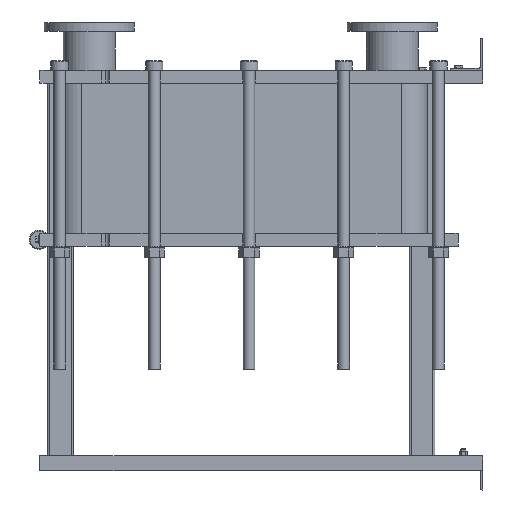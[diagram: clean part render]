
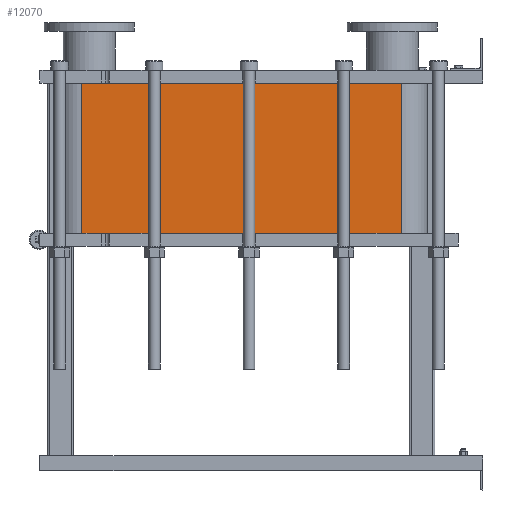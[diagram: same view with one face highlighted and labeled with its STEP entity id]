
A CAD part, left-side view. The second image highlights one B-rep face of the part: STEP entity #12070.
In plain terms, the highlighted planar face has unit normal (-1, 0, 0).
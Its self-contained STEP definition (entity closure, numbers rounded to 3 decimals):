
#1064=LINE('',#21140,#2164);
#1065=LINE('',#21144,#2165);
#1066=LINE('',#21146,#2166);
#1067=LINE('',#21147,#2167);
#2164=VECTOR('',#15790,10.);
#2165=VECTOR('',#15795,10.);
#2166=VECTOR('',#15796,10.);
#2167=VECTOR('',#15797,10.);
#3304=FACE_OUTER_BOUND('',#4091,.T.);
#4091=EDGE_LOOP('',(#9793,#9794,#9795,#9796));
#5677=VERTEX_POINT('',#21137);
#5678=VERTEX_POINT('',#21139);
#5679=VERTEX_POINT('',#21143);
#5680=VERTEX_POINT('',#21145);
#7118=EDGE_CURVE('',#5678,#5677,#1064,.T.);
#7120=EDGE_CURVE('',#5677,#5679,#1065,.T.);
#7121=EDGE_CURVE('',#5680,#5679,#1066,.T.);
#7122=EDGE_CURVE('',#5680,#5678,#1067,.T.);
#9793=ORIENTED_EDGE('',*,*,#7120,.T.);
#9794=ORIENTED_EDGE('',*,*,#7121,.F.);
#9795=ORIENTED_EDGE('',*,*,#7122,.T.);
#9796=ORIENTED_EDGE('',*,*,#7118,.T.);
#11441=PLANE('',#13191);
#12070=ADVANCED_FACE('',(#3304),#11441,.T.);
#13191=AXIS2_PLACEMENT_3D('',#21142,#15793,#15794);
#15790=DIRECTION('',(0.,0.,-1.));
#15793=DIRECTION('center_axis',(-1.,0.,0.));
#15794=DIRECTION('ref_axis',(0.,1.,0.));
#15795=DIRECTION('',(0.,-1.,0.));
#15796=DIRECTION('',(0.,0.,-1.));
#15797=DIRECTION('',(0.,1.,0.));
#21137=CARTESIAN_POINT('',(-248.152,1243.818,-465.75));
#21139=CARTESIAN_POINT('',(-248.152,1243.818,0.));
#21140=CARTESIAN_POINT('',(-248.152,1243.818,0.));
#21142=CARTESIAN_POINT('Origin',(-248.152,251.818,0.));
#21143=CARTESIAN_POINT('',(-248.152,251.818,-465.75));
#21144=CARTESIAN_POINT('',(-248.152,499.818,-465.75));
#21145=CARTESIAN_POINT('',(-248.152,251.818,0.));
#21146=CARTESIAN_POINT('',(-248.152,251.818,0.));
#21147=CARTESIAN_POINT('',(-248.152,251.818,0.));
